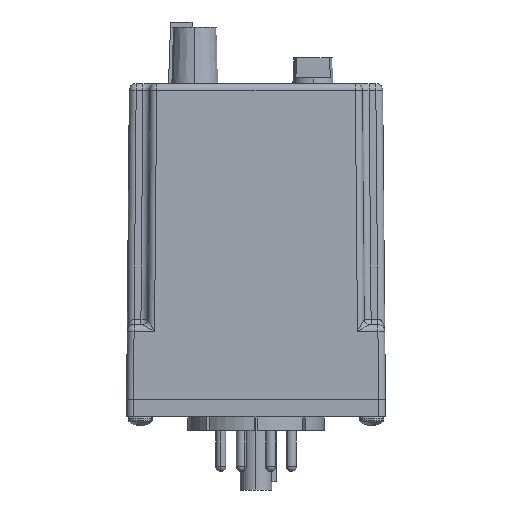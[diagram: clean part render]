
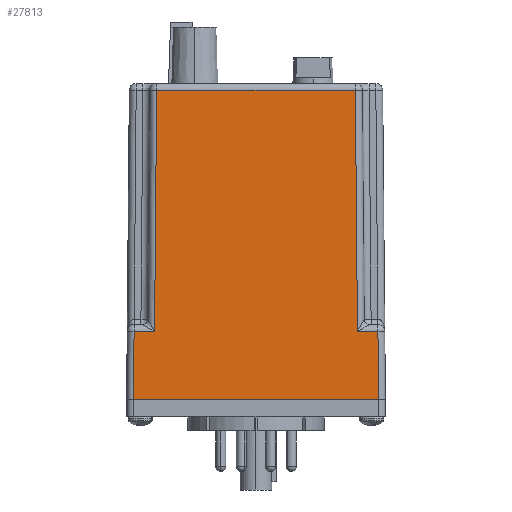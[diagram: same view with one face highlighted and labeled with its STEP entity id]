
A CAD part, left-side view. The second image highlights one B-rep face of the part: STEP entity #27813.
In plain terms, the highlighted planar face has unit normal (-1, 0, 0.009).
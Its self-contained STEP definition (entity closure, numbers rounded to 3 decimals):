
#649 = CARTESIAN_POINT ( 'NONE',  ( -22.225, -30.163, 0. ) ) ;
#1941 = VERTEX_POINT ( 'NONE', #19770 ) ;
#2441 = DIRECTION ( 'NONE',  ( 0., 1., 0. ) ) ;
#2728 = LINE ( 'NONE', #20535, #28408 ) ;
#3106 = CARTESIAN_POINT ( 'NONE',  ( -21.596, 23.158, 72.074 ) ) ;
#3900 = PLANE ( 'NONE',  #27134 ) ;
#4483 = EDGE_CURVE ( 'NONE', #26810, #9818, #23398, .T. ) ;
#4609 = EDGE_CURVE ( 'NONE', #9818, #1941, #9411, .T. ) ;
#4806 = EDGE_CURVE ( 'NONE', #10945, #6493, #28174, .T. ) ;
#4909 = DIRECTION ( 'NONE',  ( 0.009, 0.009, 1. ) ) ;
#4928 = ORIENTED_EDGE ( 'NONE', *, *, #7600, .T. ) ;
#4954 = CARTESIAN_POINT ( 'NONE',  ( -22.221, 23.783, 0.471 ) ) ;
#5020 = ORIENTED_EDGE ( 'NONE', *, *, #14473, .T. ) ;
#5320 = ORIENTED_EDGE ( 'NONE', *, *, #31112, .T. ) ;
#6493 = VERTEX_POINT ( 'NONE', #3106 ) ;
#6739 = FACE_OUTER_BOUND ( 'NONE', #7827, .T. ) ;
#6907 = VECTOR ( 'NONE', #12296, 1000. ) ;
#7145 = CARTESIAN_POINT ( 'NONE',  ( -22.225, -23.788, -0.056 ) ) ;
#7600 = EDGE_CURVE ( 'NONE', #6493, #19709, #19765, .T. ) ;
#7827 = EDGE_LOOP ( 'NONE', ( #4928, #19122, #5020, #25467, #29947, #5320, #31897, #14565 ) ) ;
#8892 = CARTESIAN_POINT ( 'NONE',  ( -22.225, -30.163, 0. ) ) ;
#9411 = LINE ( 'NONE', #20208, #15164 ) ;
#9818 = VERTEX_POINT ( 'NONE', #19552 ) ;
#9923 = LINE ( 'NONE', #32176, #20909 ) ;
#10385 = VECTOR ( 'NONE', #19947, 1000. ) ;
#10418 = DIRECTION ( 'NONE',  ( 0., 1., 0. ) ) ;
#10903 = VERTEX_POINT ( 'NONE', #23356 ) ;
#10945 = VERTEX_POINT ( 'NONE', #11702 ) ;
#11702 = CARTESIAN_POINT ( 'NONE',  ( -21.596, -23.158, 72.074 ) ) ;
#12296 = DIRECTION ( 'NONE',  ( 0.009, 0.009, 1. ) ) ;
#13318 = VECTOR ( 'NONE', #25903, 1000. ) ;
#13721 = EDGE_CURVE ( 'NONE', #19709, #21675, #2728, .T. ) ;
#14473 = EDGE_CURVE ( 'NONE', #21675, #26810, #27245, .T. ) ;
#14565 = ORIENTED_EDGE ( 'NONE', *, *, #4806, .T. ) ;
#14635 = LINE ( 'NONE', #7145, #6907 ) ;
#14650 = VECTOR ( 'NONE', #10418, 1000. ) ;
#15164 = VECTOR ( 'NONE', #4909, 1000. ) ;
#15385 = CARTESIAN_POINT ( 'NONE',  ( -21.596, 23.144, 72.074 ) ) ;
#16748 = VECTOR ( 'NONE', #24223, 1000. ) ;
#16873 = DIRECTION ( 'NONE',  ( -1., 0., 0.009 ) ) ;
#19122 = ORIENTED_EDGE ( 'NONE', *, *, #13721, .T. ) ;
#19552 = CARTESIAN_POINT ( 'NONE',  ( -22.225, -28.562, 0. ) ) ;
#19709 = VERTEX_POINT ( 'NONE', #21266 ) ;
#19765 = LINE ( 'NONE', #4954, #13318 ) ;
#19770 = CARTESIAN_POINT ( 'NONE',  ( -22.086, -28.424, 15.889 ) ) ;
#19947 = DIRECTION ( 'NONE',  ( -0.009, 0.009, -1. ) ) ;
#20208 = CARTESIAN_POINT ( 'NONE',  ( -22.225, -28.562, -0.014 ) ) ;
#20535 = CARTESIAN_POINT ( 'NONE',  ( -22.086, 28.41, 15.889 ) ) ;
#20543 = CARTESIAN_POINT ( 'NONE',  ( -22.086, 28.424, 15.889 ) ) ;
#20909 = VECTOR ( 'NONE', #2441, 1000. ) ;
#21266 = CARTESIAN_POINT ( 'NONE',  ( -22.086, 23.649, 15.889 ) ) ;
#21675 = VERTEX_POINT ( 'NONE', #20543 ) ;
#23356 = CARTESIAN_POINT ( 'NONE',  ( -22.086, -23.649, 15.889 ) ) ;
#23398 = LINE ( 'NONE', #649, #16748 ) ;
#23669 = DIRECTION ( 'NONE',  ( 0., 1., 0. ) ) ;
#24223 = DIRECTION ( 'NONE',  ( 0., -1., 0. ) ) ;
#24917 = CARTESIAN_POINT ( 'NONE',  ( -22.225, 28.562, 0. ) ) ;
#25467 = ORIENTED_EDGE ( 'NONE', *, *, #4483, .T. ) ;
#25860 = EDGE_CURVE ( 'NONE', #10903, #10945, #14635, .T. ) ;
#25903 = DIRECTION ( 'NONE',  ( -0.009, 0.009, -1. ) ) ;
#26670 = DIRECTION ( 'NONE',  ( 0.009, 0., 1. ) ) ;
#26810 = VERTEX_POINT ( 'NONE', #24917 ) ;
#27134 = AXIS2_PLACEMENT_3D ( 'NONE', #8892, #16873, #26670 ) ;
#27245 = LINE ( 'NONE', #31870, #10385 ) ;
#27813 = ADVANCED_FACE ( 'NONE', ( #6739 ), #3900, .T. ) ;
#28174 = LINE ( 'NONE', #15385, #14650 ) ;
#28408 = VECTOR ( 'NONE', #23669, 1000. ) ;
#29947 = ORIENTED_EDGE ( 'NONE', *, *, #4609, .T. ) ;
#31112 = EDGE_CURVE ( 'NONE', #1941, #10903, #9923, .T. ) ;
#31870 = CARTESIAN_POINT ( 'NONE',  ( -22.221, 28.558, 0.512 ) ) ;
#31897 = ORIENTED_EDGE ( 'NONE', *, *, #25860, .T. ) ;
#32176 = CARTESIAN_POINT ( 'NONE',  ( -22.086, -23.635, 15.889 ) ) ;
